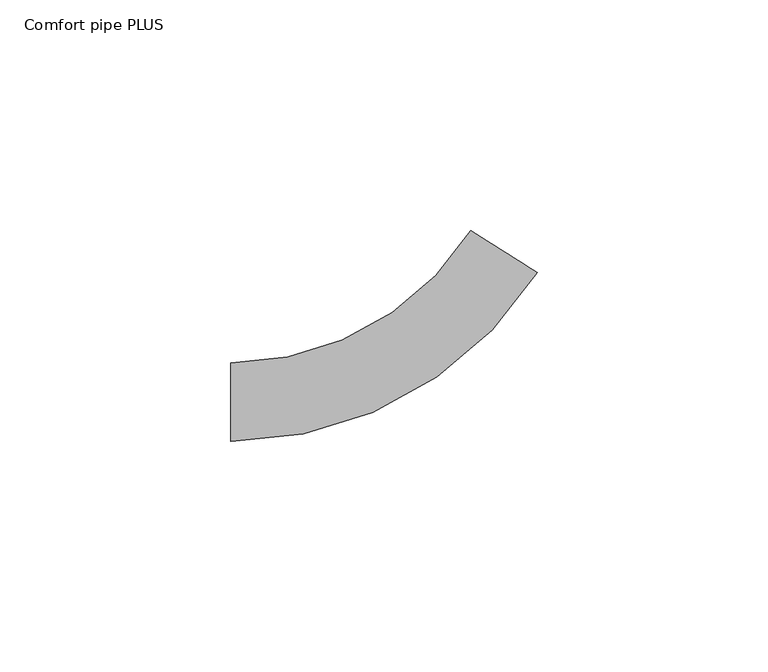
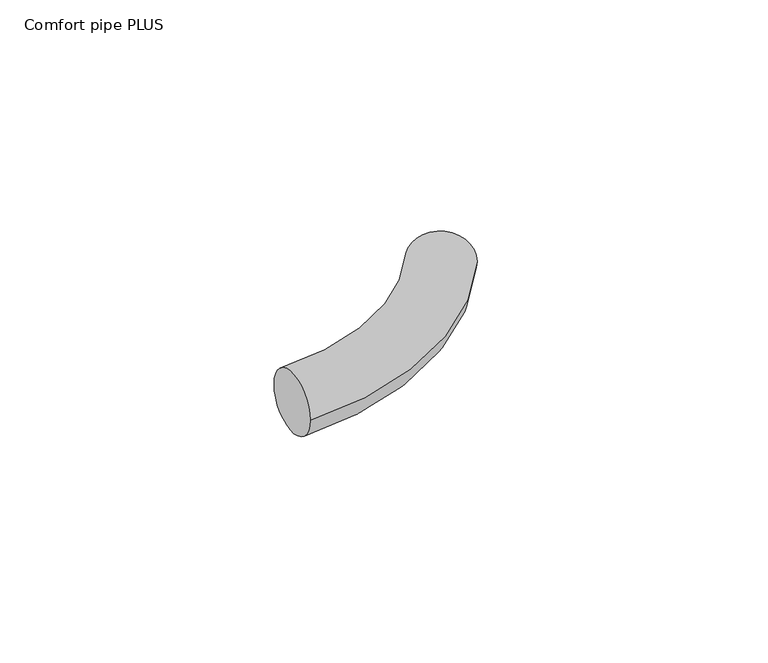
"""IFC4 building model written with IfcOpenShell, lengths in millimetres: pipe fitting geometry, 400_5-_Uponor_curved_Elbow : Comfort pipe PLUS."""

from ifc_helpers import new_model, si_unit, point, frame, origin, place, context, project, spatial, circle_curve, ellipse_curve, trimmed, source, transform, mapped, element, save
from ifc_brep_helpers import plane_surface, revolved_surface, advanced_brep


def comfort_pipe_plus_ddaea543(model_context):
    return source(origin(), model_context, "Body", "AdvancedBrep", [
        advanced_brep(
        [(-38.5779409, -8.5, 0.0), (-38.5779409, 8.5, 0.0), (27.7893852, 28.0759256, 0.0), (13.4168433, 37.1550245, 0.0)],
        [
            (0, 1, circle_curve(frame((-38.5779409, 0.0, 0.0), z_axis=(-1.0, 0.0, 0.0), x_axis=(0.0, 1.0, 0.0)), 8.5)),
            (1, 0, circle_curve(frame((-38.5779409, 0.0, 0.0), z_axis=(-1.0, 0.0, 0.0), x_axis=(0.0, 1.0, 0.0)), 8.5)),
            (2, 3, circle_curve(frame((20.6031142, 32.615475, 0.0), z_axis=(0.5340646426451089, 0.845443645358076, 0.0), x_axis=(-0.845443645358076, 0.5340646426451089, 0.0)), 8.5)),
            (3, 2, circle_curve(frame((20.6031142, 32.615475, 0.0), z_axis=(0.5340646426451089, 0.845443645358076, 0.0), x_axis=(-0.845443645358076, 0.5340646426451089, 0.0)), 8.5)),
            (3, 1, circle_curve(frame((-38.5779409, 70.0, 0.0), z_axis=(0.0, 0.0, -1.0), x_axis=(0.0, -1.0, 0.0)), 61.5)),
            (0, 2, circle_curve(frame((-38.5779409, 70.0, 0.0), z_axis=(0.0, 0.0, 1.0), x_axis=(0.0, -1.0, 0.0)), 78.5)),
        ],
        [
            plane_surface(frame((-38.5779409, 0.0, 0.0), z_axis=(-1.0, 0.0, 0.0), x_axis=(0.0, 0.0, 1.0))),
            plane_surface(frame((20.6031142, 32.615475, 0.0), z_axis=(0.5340646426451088, 0.845443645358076, 0.0), x_axis=(0.0, 0.0, 1.0))),
            revolved_surface(trimmed(ellipse_curve(frame((-38.5779409, 0.0, 0.0), z_axis=(-1.0, 0.0, 0.0), x_axis=(0.0, 1.0, 0.0)), 8.5, 8.5), [point((-38.5779409, -8.5, 0.0))], [point((-38.5779409, 8.5, 0.0))], True, "CARTESIAN"), (-38.5779409, 70.0, 0.0), (0.0, 0.0, 1.0)),
            revolved_surface(trimmed(ellipse_curve(frame((-38.5779409, 0.0, 0.0), z_axis=(-1.0, 0.0, 0.0), x_axis=(0.0, 1.0, 0.0)), 8.5, 8.5), [point((-38.5779409, 8.5, 0.0))], [point((-38.5779409, -8.5, 0.0))], True, "CARTESIAN"), (-38.5779409, 70.0, 0.0), (0.0, 0.0, 1.0)),
        ],
        [
            (0, [[1, 2]]),
            (1, [[3, 4]]),
            (2, [[5, -1, 6, -4]]),
            (3, [[-6, -2, -5, -3]]),
        ],
    ),
    ])


if __name__ == "__main__":
    model = new_model("IFC4")
    model_context = context("Model", 3, world=origin())
    ifc_project = project(units=[si_unit("LENGTHUNIT", "METRE", prefix="MILLI")], contexts=[model_context])
    site = spatial("IfcSite", under=ifc_project)
    building = spatial("IfcBuilding", under=site)
    placement = place(None, origin())
    comfort_pipe_plus_shape = comfort_pipe_plus_ddaea543(model_context)
    element("IfcPipeFitting", 1, ObjectType="400_5-_Uponor_curved_Elbow : Comfort pipe PLUS", at=placement, inside=building, context=model_context, shape_type="MappedRepresentation", body=[
        mapped(comfort_pipe_plus_shape, transform((0.0, 0.0, 0.0), x_axis=(1.0, 0.0, 0.0), y_axis=(0.0, 1.0, 0.0), z_axis=(0.0, 0.0, 1.0))),
    ])
    save(model, "model.ifc")
